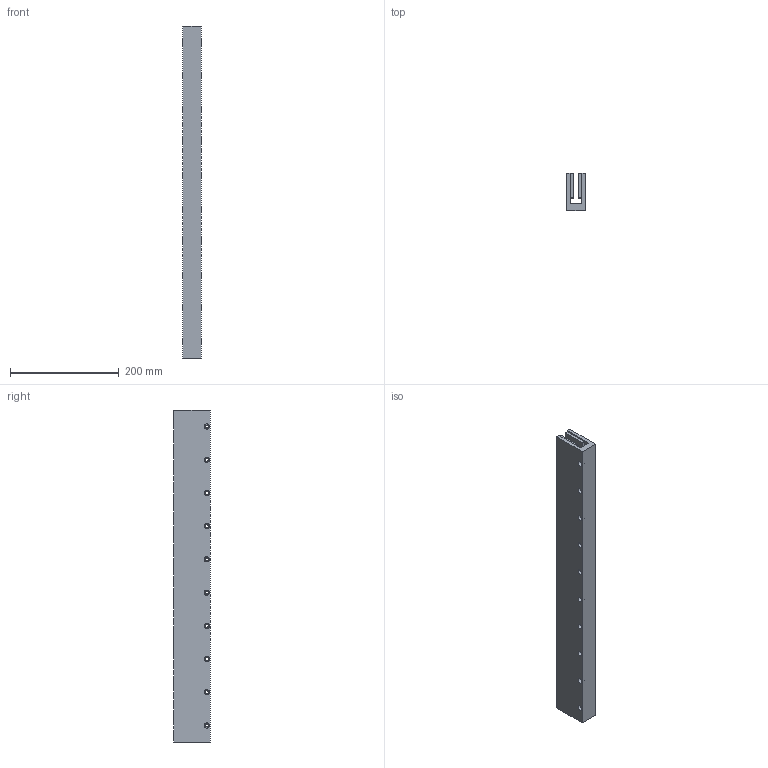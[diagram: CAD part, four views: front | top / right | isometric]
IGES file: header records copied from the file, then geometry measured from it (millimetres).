
Global section: file name: No Iges File Name specified; native system: Autodesk Inventor 2012; preprocessor: AutoDesk Inventor Iges Exporter R2012; author: je17857; date: 20120511.155642; units: inch
Bounding box: 34.29 x 67.31 x 609.35 mm (x, y, z)
Volume: 906168.8 mm3; surface area: 231932.9 mm2
Topology: 1 solids, 1 shells, 260 faces, 594 edges, 396 vertices
Faces by surface type: plane 230, revolution 30
